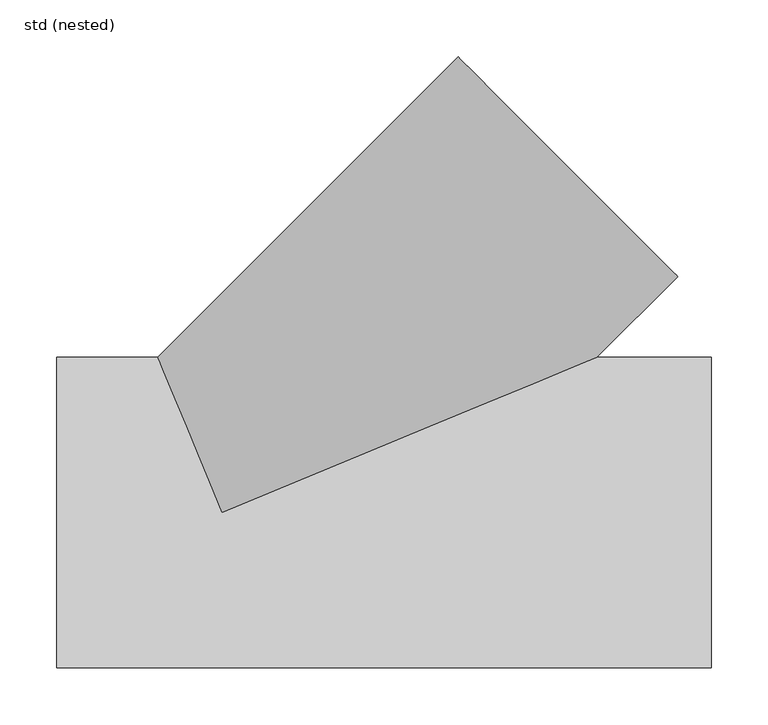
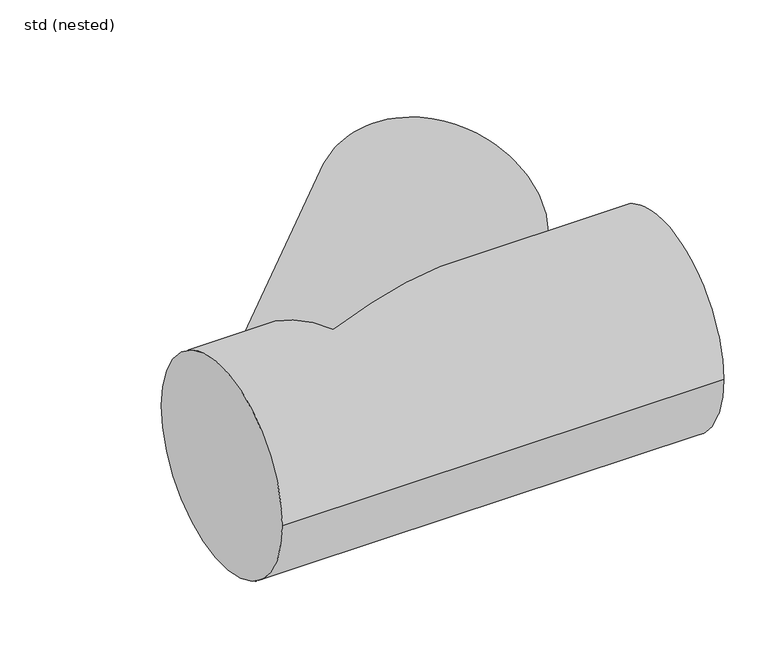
"""IFC4 building model written with IfcOpenShell, lengths in millimetres: pipe fitting geometry, ZZZ_do not use_PIF_ST_UN_GM-X single branch socket free_ACO : std (nested)."""

from ifc_helpers import new_model, si_unit, frame, origin, place, context, project, spatial, circle_curve, ellipse_curve, source, transform, mapped, element, save
from ifc_brep_helpers import plane_surface, cylinder_surface, advanced_brep


def std_nested_de9a7761(model_context):
    return source(origin(), model_context, "Body", "AdvancedBrep", [
        advanced_brep(
        [(430.0, -136.5, 0.0), (430.0, 136.5, 0.0), (-145.0, -136.5, 0.0), (-145.0, 136.5, 0.0), (-56.5327006, 136.5, 0.0), (0.0, 0.0, -136.5), (329.5835824, 136.5, 0.0), (0.0, 0.0, 136.5), (400.5953283, 207.4985131, 0.0), (207.5731656, 400.5566513, 0.0)],
        [
            (0, 1, circle_curve(frame((430.0, 0.0, 0.0), z_axis=(1.0, 0.0, 0.0), x_axis=(0.0, 1.0, 0.0)), 136.5)),
            (1, 0, circle_curve(frame((430.0, 0.0, 0.0), z_axis=(1.0, 0.0, 0.0), x_axis=(0.0, 1.0, 0.0)), 136.5)),
            (2, 3, circle_curve(frame((-145.0, 0.0, 0.0), z_axis=(-1.0, 0.0, 0.0), x_axis=(0.0, 1.0, 0.0)), 136.5)),
            (3, 2, circle_curve(frame((-145.0, 0.0, 0.0), z_axis=(-1.0, 0.0, 0.0), x_axis=(0.0, 1.0, 0.0)), 136.5)),
            (0, 2),
            (3, 4),
            (4, 5, ellipse_curve(frame((0.0, 0.0, 0.0), z_axis=(-0.9238973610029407, -0.38264038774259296, 0.0), x_axis=(0.38264038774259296, -0.9238973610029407, 0.0)), 147.7436843, 136.5)),
            (5, 6, ellipse_curve(frame((0.0, 0.0, 0.0), z_axis=(0.38264038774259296, -0.9238973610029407, 0.0), x_axis=(0.9238973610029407, 0.38264038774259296, 0.0)), 356.731815, 136.5)),
            (6, 1),
            (6, 7, ellipse_curve(frame((0.0, 0.0, 0.0), z_axis=(0.38264038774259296, -0.9238973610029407, 0.0), x_axis=(0.9238973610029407, 0.38264038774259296, 0.0)), 356.731815, 136.5)),
            (7, 4, ellipse_curve(frame((0.0, 0.0, 0.0), z_axis=(-0.9238973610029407, -0.38264038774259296, 0.0), x_axis=(0.38264038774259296, -0.9238973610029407, 0.0)), 147.7436843, 136.5)),
            (8, 9, circle_curve(frame((304.084247, 304.0275822, 0.0), z_axis=(0.7071726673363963, 0.7070408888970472, 0.0), x_axis=(-0.7070408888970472, 0.7071726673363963, 0.0)), 136.5)),
            (9, 8, circle_curve(frame((304.084247, 304.0275822, 0.0), z_axis=(0.7071726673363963, 0.7070408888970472, 0.0), x_axis=(-0.7070408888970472, 0.7071726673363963, 0.0)), 136.5)),
            (9, 4),
            (6, 8),
        ],
        [
            plane_surface(frame((430.0, 136.5, 0.0), z_axis=(1.0, 0.0, 0.0), x_axis=(0.0, 0.0, 1.0))),
            plane_surface(frame((-145.0, 136.5, 0.0), z_axis=(-1.0, 0.0, 0.0), x_axis=(0.0, 0.0, -1.0))),
            cylinder_surface(frame((-145.0, 0.0, 0.0), z_axis=(1.0, 0.0, 0.0), x_axis=(0.0, 1.0, 0.0)), 136.5),
            plane_surface(frame((304.084247, 304.0275822, 0.0), z_axis=(0.7071726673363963, 0.7070408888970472, 0.0), x_axis=(0.0, 0.0, 1.0))),
            cylinder_surface(frame((0.0, 0.0, 0.0), z_axis=(-0.7071726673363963, -0.7070408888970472, 0.0), x_axis=(-0.7070408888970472, 0.7071726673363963, 0.0)), 136.5),
        ],
        [
            (0, [[1, 2]]),
            (1, [[3, 4]]),
            (2, [[-1, 5, -4, 6, 7, 8, 9]]),
            (2, [[-2, -9, 10, 11, -6, -3, -5]]),
            (3, [[12, 13]]),
            (4, [[-13, 14, -11, -10, 15]]),
            (4, [[-12, -15, -8, -7, -14]]),
        ],
    ),
    ])


if __name__ == "__main__":
    model = new_model("IFC4")
    model_context = context("Model", 3, world=origin())
    ifc_project = project(units=[si_unit("LENGTHUNIT", "METRE", prefix="MILLI")], contexts=[model_context])
    site = spatial("IfcSite", under=ifc_project)
    building = spatial("IfcBuilding", under=site)
    placement = place(None, origin())
    std_nested_shape = std_nested_de9a7761(model_context)
    element("IfcPipeFitting", 1, ObjectType="ZZZ_do not use_PIF_ST_UN_GM-X single branch socket free_ACO : std (nested)", at=placement, inside=building, context=model_context, shape_type="MappedRepresentation", body=[
        mapped(std_nested_shape, transform((0.0, 0.0, 0.0), x_axis=(1.0, 0.0, 0.0), y_axis=(0.0, 1.0, 0.0), z_axis=(0.0, 0.0, 1.0))),
    ])
    save(model, "model.ifc")
